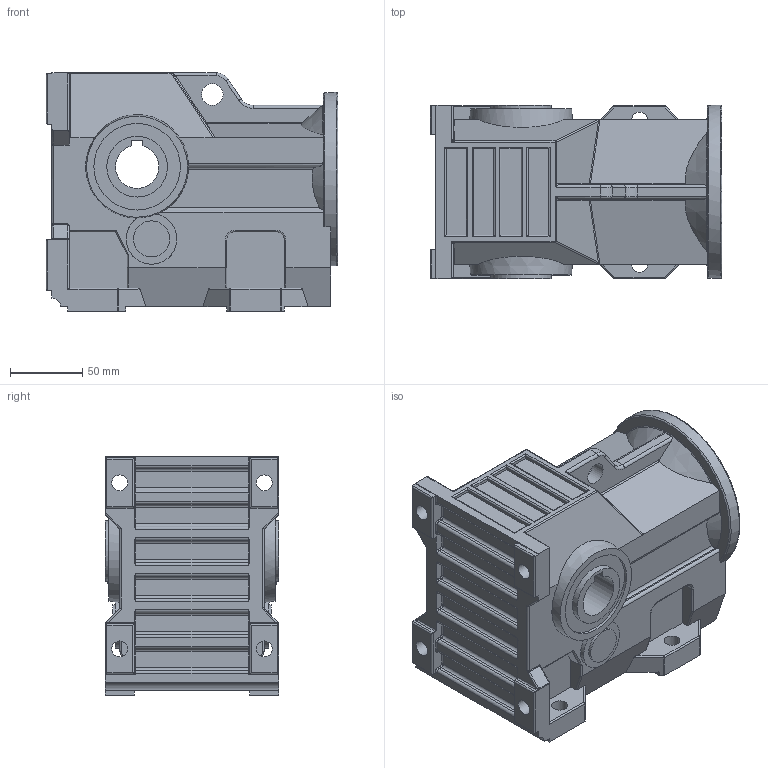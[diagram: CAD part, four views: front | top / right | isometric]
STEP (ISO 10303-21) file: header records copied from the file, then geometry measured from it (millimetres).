
FILE_DESCRIPTION((''),'2;1');
FILE_NAME('F:\PAWEŁ\ZLECENIA\2011 DualSystem\Przekładnie DK\001 Modele\DKAB30_\DK_30_STEP\DK_B_30.stp','2012-06-25T19:55:17',('admin'),(''),'Autodesk Inventor 2009','Autodesk Inventor 2009','');
FILE_SCHEMA(('AUTOMOTIVE_DESIGN { 1 0 10303 214 1 1 1 1 }'));
Length unit declared in the file: millimetre
Products named in the file (1): DK_B_30
Bounding box: 202 x 120 x 165 mm (x, y, z)
Volume: 2620261.6 mm3; surface area: 176483.4 mm2
Topology: 1 solids, 1 shells, 485 faces, 1195 edges, 714 vertices
Faces by surface type: cylinder 211, plane 141, bspline 104, torus 14, sphere 11, cone 4
Full cylindrical faces by diameter (mm): 11 x4, 15 x1, 25 x1, 42 x1, 59.939 x1, 80 x1, 120 x1
Entity records: 17600 total; most frequent: CARTESIAN_POINT 6427, DIRECTION 2318, ORIENTED_EDGE 2312, EDGE_CURVE 1156, AXIS2_PLACEMENT_3D 844, VERTEX_POINT 708, VECTOR 630, LINE 630
